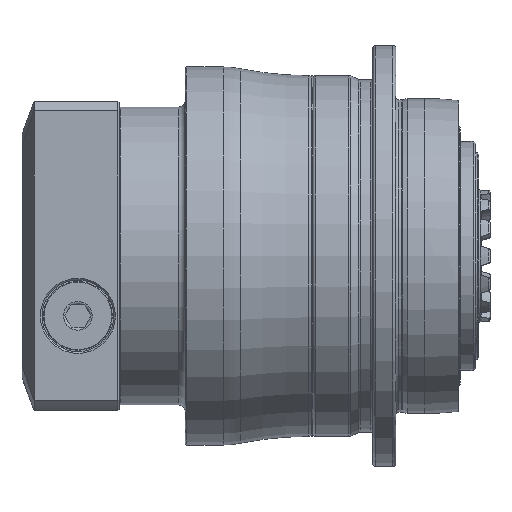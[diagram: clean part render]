
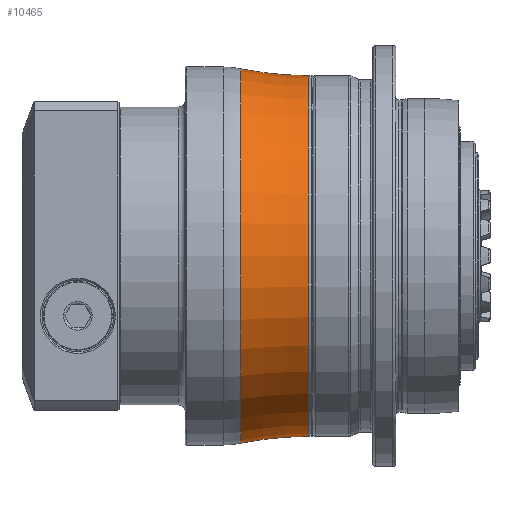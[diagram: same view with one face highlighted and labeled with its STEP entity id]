
A CAD part, top view. The second image highlights one B-rep face of the part: STEP entity #10465.
In plain terms, the highlighted toroidal (fillet/blend) face has major radius 181.542 mm and minor radius 118.542 mm.
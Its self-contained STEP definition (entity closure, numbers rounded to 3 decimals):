
#9979=CARTESIAN_POINT('',(-42.296,0.,0.));
#9980=DIRECTION('',(1.,0.,0.));
#9981=DIRECTION('',(0.,1.,0.));
#9982=AXIS2_PLACEMENT_3D('',#9979,#9980,#9981);
#9984=CARTESIAN_POINT('',(-66.,0.,0.));
#9985=DIRECTION('',(1.,0.,0.));
#9986=DIRECTION('',(0.,1.,0.));
#9987=AXIS2_PLACEMENT_3D('',#9984,#9985,#9986);
#10042=CARTESIAN_POINT('',(-66.,181.542,0.));
#10043=DIRECTION('',(0.,0.,1.));
#10044=DIRECTION('',(0.,-1.,0.));
#10045=AXIS2_PLACEMENT_3D('',#10042,#10043,#10044);
#10052=CARTESIAN_POINT('',(-66.,-181.542,0.));
#10053=DIRECTION('',(0.,0.,-1.));
#10054=DIRECTION('',(0.,1.,0.));
#10055=AXIS2_PLACEMENT_3D('',#10052,#10053,#10054);
#10157=CARTESIAN_POINT('',(-66.,63.,0.));
#10158=VERTEX_POINT('',#10157);
#10159=CARTESIAN_POINT('',(-66.,-63.,0.));
#10160=VERTEX_POINT('',#10159);
#10197=CARTESIAN_POINT('',(-42.296,65.394,0.));
#10198=CARTESIAN_POINT('',(-42.296,-65.394,0.));
#10199=VERTEX_POINT('',#10197);
#10200=VERTEX_POINT('',#10198);
#10451=CARTESIAN_POINT('',(-66.,0.,0.));
#10452=DIRECTION('',(1.,0.,0.));
#10453=DIRECTION('',(0.,-1.,0.));
#10454=AXIS2_PLACEMENT_3D('',#10451,#10452,#10453);
#10455=TOROIDAL_SURFACE('',#10454,181.542,118.542);
#10457=ORIENTED_EDGE('',*,*,#10456,.T.);
#10459=ORIENTED_EDGE('',*,*,#10458,.F.);
#10460=ORIENTED_EDGE('',*,*,#10445,.F.);
#10462=ORIENTED_EDGE('',*,*,#10461,.T.);
#10463=EDGE_LOOP('',(#10457,#10459,#10460,#10462));
#10464=FACE_OUTER_BOUND('',#10463,.F.);
#10465=ADVANCED_FACE('',(#10464),#10455,.F.);
#9983=CIRCLE('',#9982,65.394);
#9988=CIRCLE('',#9987,63.);
#10046=CIRCLE('',#10045,118.542);
#10056=CIRCLE('',#10055,118.542);
#10445=EDGE_CURVE('',#10158,#10160,#9988,.T.);
#10456=EDGE_CURVE('',#10199,#10200,#9983,.T.);
#10458=EDGE_CURVE('',#10160,#10200,#10056,.T.);
#10461=EDGE_CURVE('',#10158,#10199,#10046,.T.);
